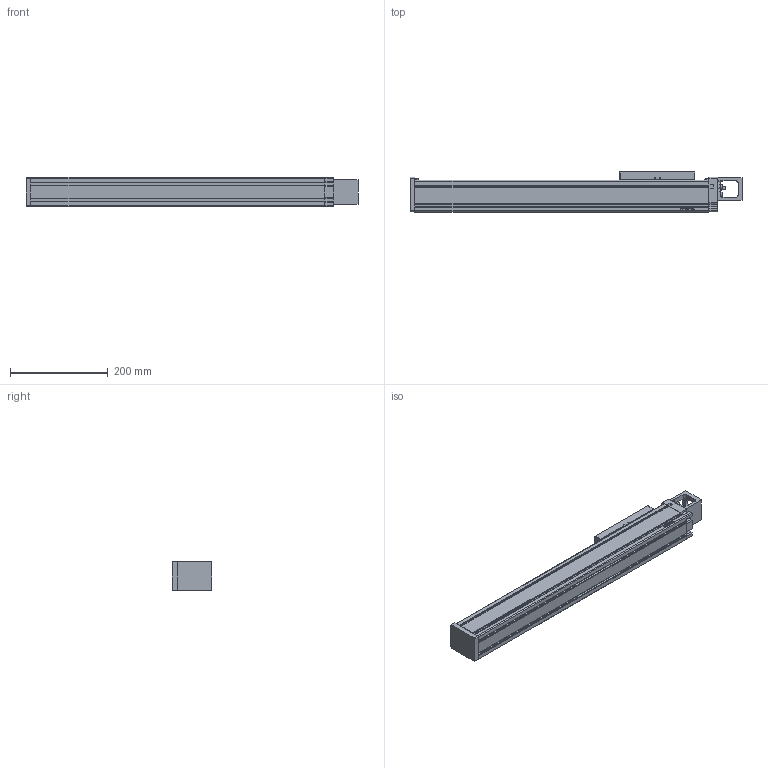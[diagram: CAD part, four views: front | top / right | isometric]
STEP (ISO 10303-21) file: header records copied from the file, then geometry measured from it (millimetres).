
FILE_DESCRIPTION(/* description */ (''),/* implementation_level */ '2;1');
FILE_NAME(/* name */ 'D:\混合母檔20191031\混和母檔\混和母檔\bin\Debug\Download\3D\KU60-10C-400AF0\KU60-10C-400AF0.stp',/* time_stamp */ '2019-11-04T16:37:52+08:00',/* author */ ('user'),/* organization */ (''),/* preprocessor_version */ 'ST-DEVELOPER v16.13',/* originating_system */ 'Autodesk Inventor 2018',/* authorisation */ '');
FILE_SCHEMA (('AUTOMOTIVE_DESIGN { 1 0 10303 214 3 1 1 }'));
Length unit declared in the file: millimetre
Products named in the file (3): KU60-10C-400AF0; KU060-F0-BP; KU60-SL
Assembly tree (2 placements, depth 2):
  KU60-10C-400AF0
    KU060-F0-BP
    KU60-SL
Bounding box: 681 x 82 x 60 mm (x, y, z)
Volume: 2504266.9 mm3; surface area: 265696.3 mm2
Topology: 2 solids, 14 shells, 756 faces, 2087 edges, 1370 vertices
Faces by surface type: plane 448, bspline 140, cylinder 133, cone 23, torus 12
Full cylindrical faces by diameter (mm): 2.459 x8, 3 x4, 3.242 x16, 3.5 x4, 4.5 x4, 5 x4, 5.5 x4, 5.7 x4, 6 x1, 8 x1, 8.5 x4, 30 x1, 35 x1
Entity records: 24568 total; most frequent: CARTESIAN_POINT 6539, ORIENTED_EDGE 3902, DIRECTION 3204, EDGE_CURVE 1951, VERTEX_POINT 1321, LINE 1288, VECTOR 1288, AXIS2_PLACEMENT_3D 958
